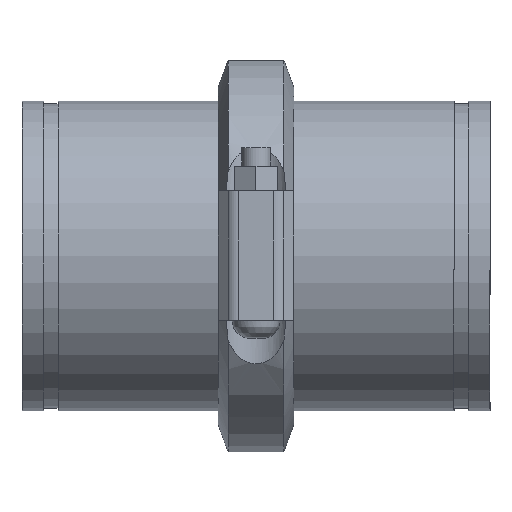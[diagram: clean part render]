
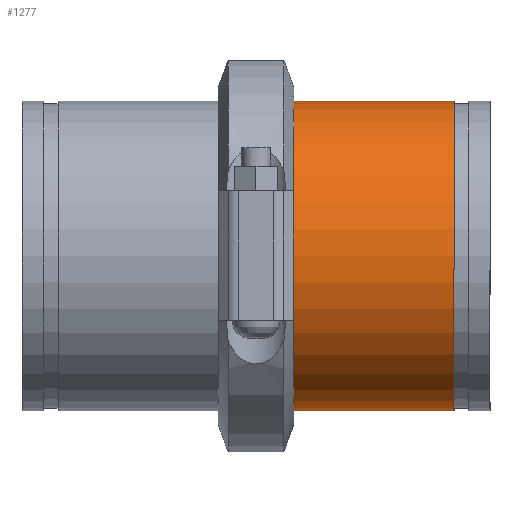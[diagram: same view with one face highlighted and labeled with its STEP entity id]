
A CAD part, top view. The second image highlights one B-rep face of the part: STEP entity #1277.
In plain terms, the highlighted cylindrical face has radius 136.525 mm (diameter 273.05 mm), a full revolution.
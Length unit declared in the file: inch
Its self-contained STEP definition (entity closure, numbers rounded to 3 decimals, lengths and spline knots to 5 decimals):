
#60=LINE('',#2012,#143);
#143=VECTOR('',#1641,5.375);
#226=CYLINDRICAL_SURFACE('',#1458,5.375);
#275=FACE_OUTER_BOUND('',#352,.T.);
#352=EDGE_LOOP('',(#837,#838,#839,#840,#841,#842));
#448=CIRCLE('',#1456,5.375);
#449=CIRCLE('',#1457,5.375);
#450=CIRCLE('',#1459,5.375);
#451=CIRCLE('',#1460,5.375);
#520=VERTEX_POINT('',#2003);
#521=VERTEX_POINT('',#2004);
#522=VERTEX_POINT('',#2008);
#523=VERTEX_POINT('',#2009);
#645=EDGE_CURVE('',#520,#521,#448,.T.);
#646=EDGE_CURVE('',#521,#520,#449,.T.);
#647=EDGE_CURVE('',#522,#523,#450,.T.);
#648=EDGE_CURVE('',#523,#522,#451,.T.);
#649=EDGE_CURVE('',#523,#521,#60,.T.);
#837=ORIENTED_EDGE('',*,*,#647,.F.);
#838=ORIENTED_EDGE('',*,*,#648,.F.);
#839=ORIENTED_EDGE('',*,*,#649,.T.);
#840=ORIENTED_EDGE('',*,*,#646,.T.);
#841=ORIENTED_EDGE('',*,*,#645,.T.);
#842=ORIENTED_EDGE('',*,*,#649,.F.);
#1277=ADVANCED_FACE('',(#275),#226,.T.);
#1456=AXIS2_PLACEMENT_3D('',#2005,#1631,#1632);
#1457=AXIS2_PLACEMENT_3D('',#2006,#1633,#1634);
#1458=AXIS2_PLACEMENT_3D('',#2007,#1635,#1636);
#1459=AXIS2_PLACEMENT_3D('',#2010,#1637,#1638);
#1460=AXIS2_PLACEMENT_3D('',#2011,#1639,#1640);
#1631=DIRECTION('center_axis',(-1.,0.,0.));
#1632=DIRECTION('ref_axis',(0.,0.,1.));
#1633=DIRECTION('center_axis',(-1.,0.,0.));
#1634=DIRECTION('ref_axis',(0.,0.,1.));
#1635=DIRECTION('center_axis',(-1.,0.,0.));
#1636=DIRECTION('ref_axis',(0.,1.,0.));
#1637=DIRECTION('center_axis',(-1.,0.,0.));
#1638=DIRECTION('ref_axis',(0.,0.,1.));
#1639=DIRECTION('center_axis',(-1.,0.,0.));
#1640=DIRECTION('ref_axis',(0.,0.,1.));
#1641=DIRECTION('',(1.,0.,0.));
#2003=CARTESIAN_POINT('',(2.78,5.375,0.));
#2004=CARTESIAN_POINT('',(2.78,-5.375,0.));
#2005=CARTESIAN_POINT('Origin',(2.78,0.,0.));
#2006=CARTESIAN_POINT('Origin',(2.78,0.,0.));
#2007=CARTESIAN_POINT('Origin',(0.,0.,
0.));
#2008=CARTESIAN_POINT('',(-2.78,5.375,0.));
#2009=CARTESIAN_POINT('',(-2.78,-5.375,0.));
#2010=CARTESIAN_POINT('Origin',(-2.78,0.,0.));
#2011=CARTESIAN_POINT('Origin',(-2.78,0.,0.));
#2012=CARTESIAN_POINT('',(0.,-5.375,0.));
